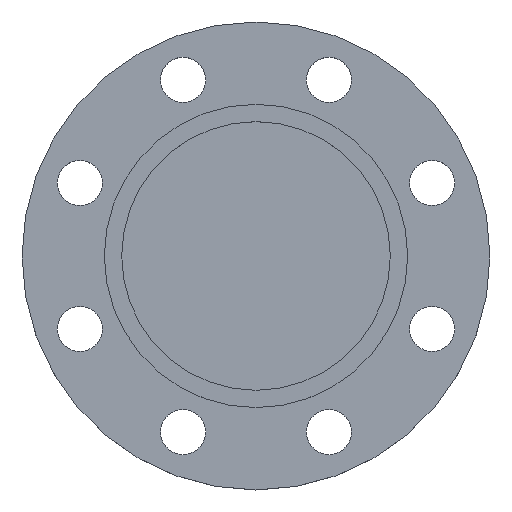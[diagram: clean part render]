
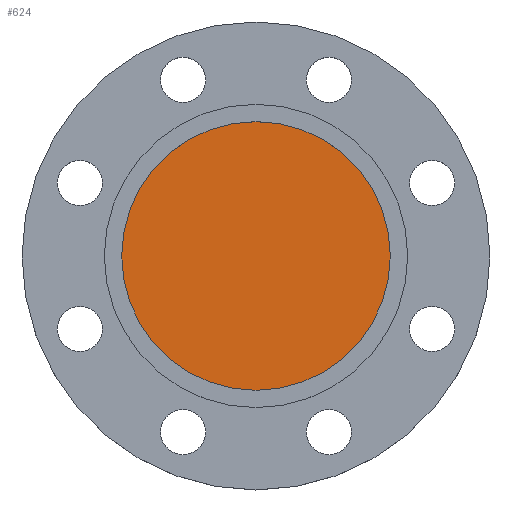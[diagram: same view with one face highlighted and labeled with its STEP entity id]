
A CAD part, top view. The second image highlights one B-rep face of the part: STEP entity #624.
In plain terms, the highlighted planar face has unit normal (0, 0, 1).
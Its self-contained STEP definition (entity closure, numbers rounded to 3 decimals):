
#37 = CARTESIAN_POINT ( 'NONE',  ( 0., 0., -5. ) ) ;
#58 = ORIENTED_EDGE ( 'NONE', *, *, #388, .F. ) ;
#71 = CIRCLE ( 'NONE', #564, 77.5 ) ;
#196 = VERTEX_POINT ( 'NONE', #197 ) ;
#197 = CARTESIAN_POINT ( 'NONE',  ( -77.5, 0., -5. ) ) ;
#199 = DIRECTION ( 'NONE',  ( 0., 0., -1. ) ) ;
#213 = AXIS2_PLACEMENT_3D ( 'NONE', #285, #553, #829 ) ;
#285 = CARTESIAN_POINT ( 'NONE',  ( 77.5, 0., -5. ) ) ;
#316 = DIRECTION ( 'NONE',  ( 0., 0., -1. ) ) ;
#367 = CIRCLE ( 'NONE', #869, 77.5 ) ;
#388 = EDGE_CURVE ( 'NONE', #196, #614, #71, .T. ) ;
#469 = DIRECTION ( 'NONE',  ( -1., 0., 0. ) ) ;
#477 = EDGE_CURVE ( 'NONE', #614, #196, #367, .T. ) ;
#537 = EDGE_LOOP ( 'NONE', ( #58, #609 ) ) ;
#553 = DIRECTION ( 'NONE',  ( 0., 0., 1. ) ) ;
#564 = AXIS2_PLACEMENT_3D ( 'NONE', #37, #316, #587 ) ;
#587 = DIRECTION ( 'NONE',  ( -1., 0., 0. ) ) ;
#609 = ORIENTED_EDGE ( 'NONE', *, *, #477, .F. ) ;
#614 = VERTEX_POINT ( 'NONE', #827 ) ;
#622 = FACE_OUTER_BOUND ( 'NONE', #537, .T. ) ;
#624 = ADVANCED_FACE ( 'NONE', ( #622 ), #891, .T. ) ;
#809 = CARTESIAN_POINT ( 'NONE',  ( 0., 0., -5. ) ) ;
#827 = CARTESIAN_POINT ( 'NONE',  ( 77.5, 0., -5. ) ) ;
#829 = DIRECTION ( 'NONE',  ( 1., 0., 0. ) ) ;
#869 = AXIS2_PLACEMENT_3D ( 'NONE', #809, #199, #469 ) ;
#891 = PLANE ( 'NONE',  #213 ) ;
